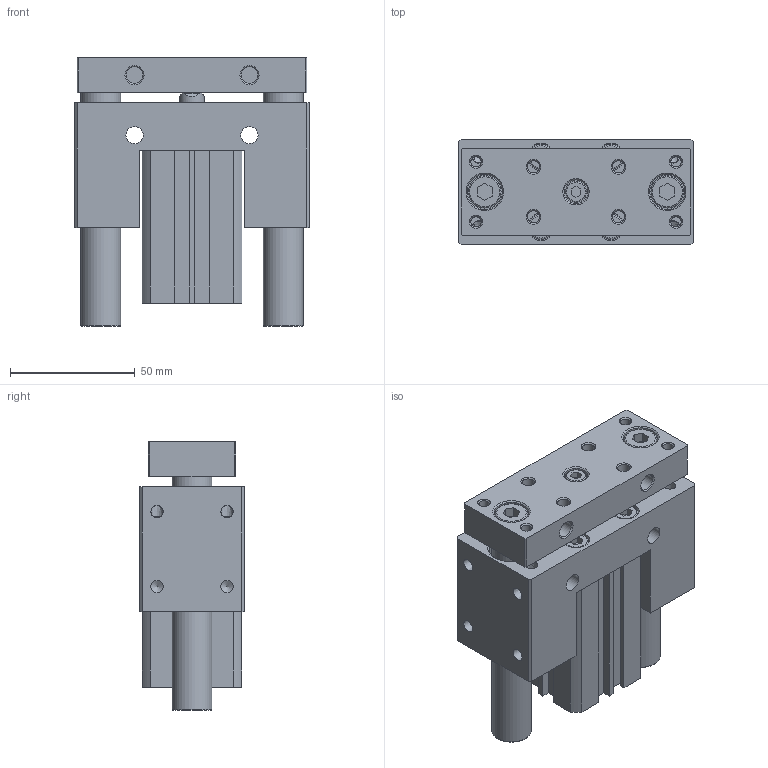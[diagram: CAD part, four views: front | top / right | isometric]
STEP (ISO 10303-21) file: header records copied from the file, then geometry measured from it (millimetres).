
FILE_DESCRIPTION((''),'2;1');
FILE_NAME('I:\3D電子目錄\氣缸\JCB\JCB\JCB25\JCB25x40.stp','2007-08-21T19:18:46',('Administrator'),(''),'Autodesk Inventor 11','Autodesk Inventor 11','');
FILE_SCHEMA(('AUTOMOTIVE_DESIGN { 1 0 10303 214 1 1 1 1 }'));
Length unit declared in the file: millimetre
Products named in the file (1): JCB25
Bounding box: 94 x 42 x 107.5 mm (x, y, z)
Volume: 265611.6 mm3; surface area: 77641 mm2
Topology: 5 solids, 5 shells, 323 faces, 740 edges, 483 vertices
Faces by surface type: plane 172, bspline 61, cylinder 47, cone 35, torus 8
Full cylindrical faces by diameter (mm): 1.5 x2, 4.917 x4, 5.1 x4, 6.647 x2, 8 x8, 8.5 x1, 10 x5, 11 x1, 13 x2, 16 x2, 17 x2, 18 x2, 28 x4, 29.4 x2
Entity records: 8980 total; most frequent: CARTESIAN_POINT 2309, DIRECTION 1332, ORIENTED_EDGE 1160, EDGE_CURVE 580, EDGE_LOOP 544, AXIS2_PLACEMENT_3D 493, VERTEX_POINT 454, VECTOR 346
